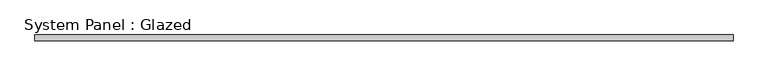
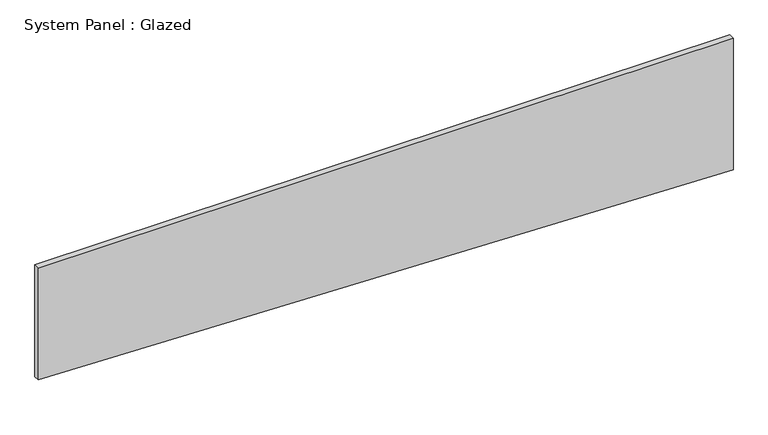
"""IFC4 building model written with IfcOpenShell, lengths in millimetres: plate geometry, System Panel : Glazed."""

from ifc_helpers import new_model, si_unit, frame, origin, place, context, project, spatial, polyline, outline, extrude, source, transform, mapped, element, save


def system_panel_glazed_fc520028(model_context):
    return source(origin(), model_context, "Body", "SweptSolid", [
        extrude(outline(polyline([(89.9359033, -1504.95), (0.0, 1504.95), (601.1652131, 1504.95), (601.1652131, -1504.95), (89.9359033, -1504.95)])), frame((0.0, 19.05, 0.0), z_axis=(0.0, 1.0, 0.0), x_axis=(0.0, 0.0, 1.0)), (0.0, 0.0, 1.0), 25.4),
    ])


if __name__ == "__main__":
    model = new_model("IFC4")
    model_context = context("Model", 3, world=origin())
    ifc_project = project(units=[si_unit("LENGTHUNIT", "METRE", prefix="MILLI")], contexts=[model_context])
    site = spatial("IfcSite", under=ifc_project)
    building = spatial("IfcBuilding", under=site)
    placement = place(None, origin())
    system_panel_glazed_shape = system_panel_glazed_fc520028(model_context)
    element("IfcPlate", 1, ObjectType="System Panel : Glazed", at=placement, inside=building, context=model_context, shape_type="MappedRepresentation", body=[
        mapped(system_panel_glazed_shape, transform((0.0, 0.0, 0.0), x_axis=(1.0, 0.0, 0.0), y_axis=(0.0, 1.0, 0.0), z_axis=(0.0, 0.0, 1.0))),
    ])
    save(model, "model.ifc")
